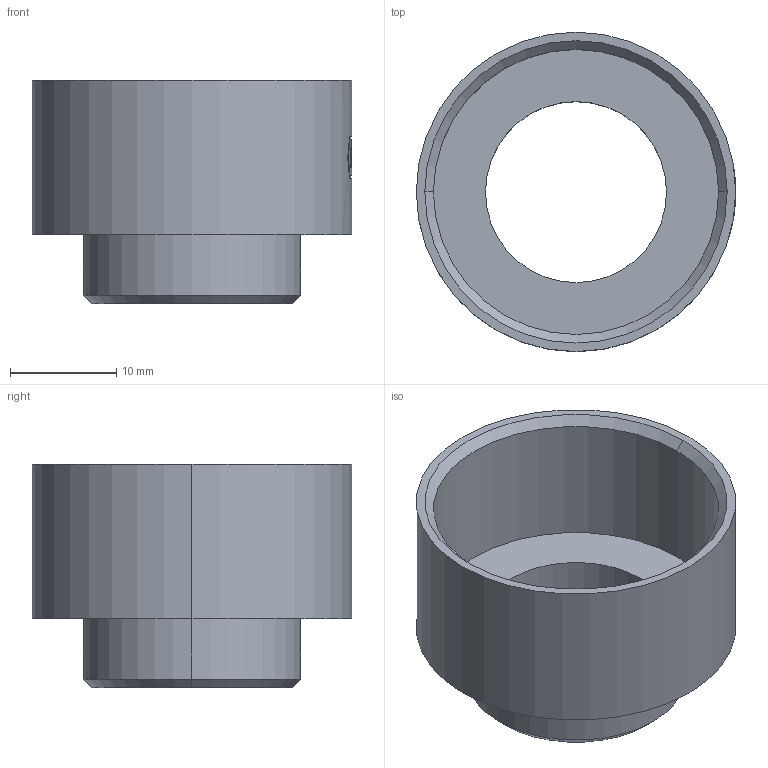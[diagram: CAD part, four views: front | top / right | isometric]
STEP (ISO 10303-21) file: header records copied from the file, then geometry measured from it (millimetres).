
FILE_DESCRIPTION (( 'STEP AP203' ), '1' );
FILE_NAME ('1321.STEP', '2005-11-22T09:38:12', ( ' ' ), ( '' ), 'SwSTEP 2.0', 'SolidWorks 2005278', '' );
FILE_SCHEMA (( 'CONFIG_CONTROL_DESIGN' ));
Length unit declared in the file: millimetre
Products named in the file (1): 1321
Bounding box: 30 x 30 x 21 mm (x, y, z)
Volume: 3186.4 mm3; surface area: 4199.2 mm2
Topology: 1 solids, 1 shells, 54 faces, 141 edges, 92 vertices
Faces by surface type: plane 38, cylinder 12, cone 4
Entity records: 1768 total; most frequent: CARTESIAN_POINT 348, ORIENTED_EDGE 282, DIRECTION 281, EDGE_CURVE 141, AXIS2_PLACEMENT_3D 105, VERTEX_POINT 92, VECTOR 71, LINE 71
